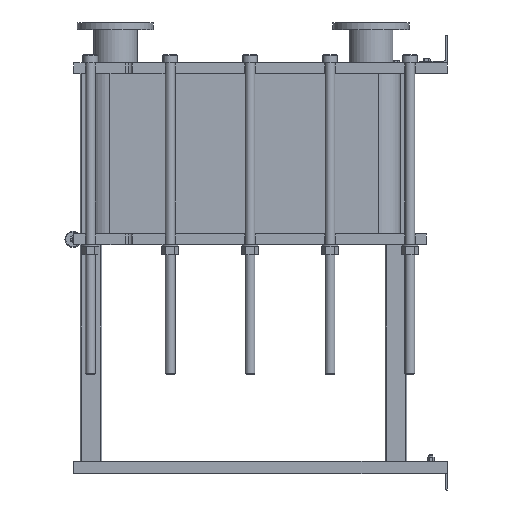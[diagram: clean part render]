
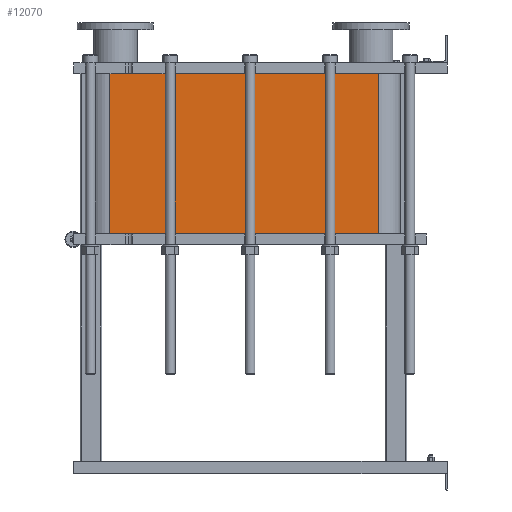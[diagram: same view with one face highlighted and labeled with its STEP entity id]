
A CAD part, left-side view. The second image highlights one B-rep face of the part: STEP entity #12070.
In plain terms, the highlighted planar face has unit normal (-1, 0, 0).
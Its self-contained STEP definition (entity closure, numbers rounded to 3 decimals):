
#1064=LINE('',#21140,#2164);
#1065=LINE('',#21144,#2165);
#1066=LINE('',#21146,#2166);
#1067=LINE('',#21147,#2167);
#2164=VECTOR('',#15790,10.);
#2165=VECTOR('',#15795,10.);
#2166=VECTOR('',#15796,10.);
#2167=VECTOR('',#15797,10.);
#3304=FACE_OUTER_BOUND('',#4091,.T.);
#4091=EDGE_LOOP('',(#9793,#9794,#9795,#9796));
#5677=VERTEX_POINT('',#21137);
#5678=VERTEX_POINT('',#21139);
#5679=VERTEX_POINT('',#21143);
#5680=VERTEX_POINT('',#21145);
#7118=EDGE_CURVE('',#5678,#5677,#1064,.T.);
#7120=EDGE_CURVE('',#5677,#5679,#1065,.T.);
#7121=EDGE_CURVE('',#5680,#5679,#1066,.T.);
#7122=EDGE_CURVE('',#5680,#5678,#1067,.T.);
#9793=ORIENTED_EDGE('',*,*,#7120,.T.);
#9794=ORIENTED_EDGE('',*,*,#7121,.F.);
#9795=ORIENTED_EDGE('',*,*,#7122,.T.);
#9796=ORIENTED_EDGE('',*,*,#7118,.T.);
#11441=PLANE('',#13191);
#12070=ADVANCED_FACE('',(#3304),#11441,.T.);
#13191=AXIS2_PLACEMENT_3D('',#21142,#15793,#15794);
#15790=DIRECTION('',(0.,0.,-1.));
#15793=DIRECTION('center_axis',(-1.,0.,0.));
#15794=DIRECTION('ref_axis',(0.,1.,0.));
#15795=DIRECTION('',(0.,-1.,0.));
#15796=DIRECTION('',(0.,0.,-1.));
#15797=DIRECTION('',(0.,1.,0.));
#21137=CARTESIAN_POINT('',(-248.152,1243.818,-589.95));
#21139=CARTESIAN_POINT('',(-248.152,1243.818,0.));
#21140=CARTESIAN_POINT('',(-248.152,1243.818,0.));
#21142=CARTESIAN_POINT('Origin',(-248.152,251.818,0.));
#21143=CARTESIAN_POINT('',(-248.152,251.818,-589.95));
#21144=CARTESIAN_POINT('',(-248.152,499.818,-589.95));
#21145=CARTESIAN_POINT('',(-248.152,251.818,0.));
#21146=CARTESIAN_POINT('',(-248.152,251.818,0.));
#21147=CARTESIAN_POINT('',(-248.152,251.818,0.));
